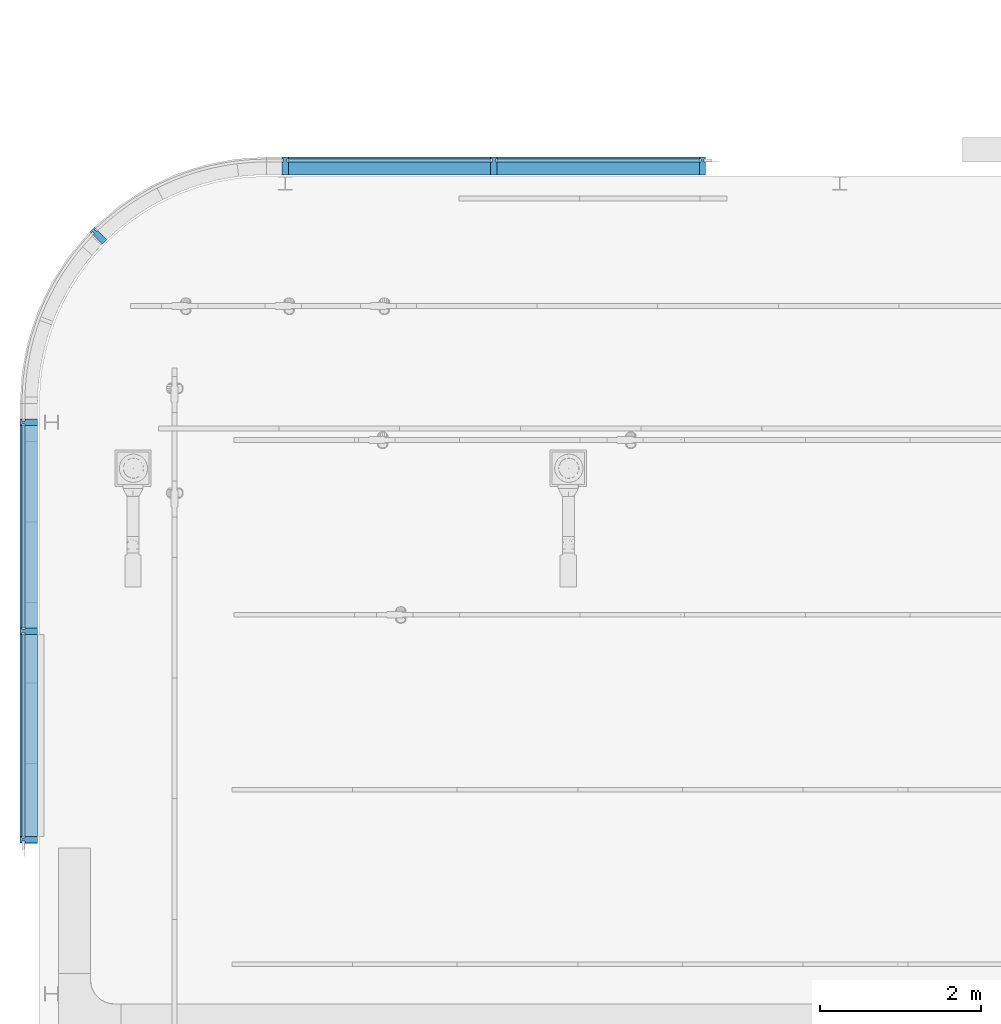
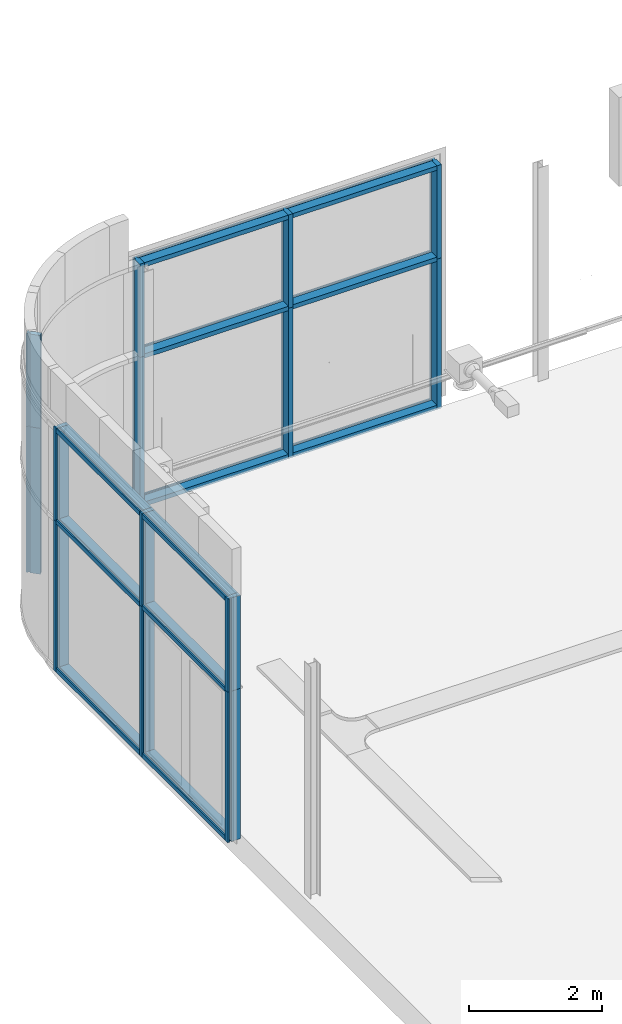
# One storey, part 7 of 290: 26 members, 3 elements without a shape of their own.
"""IFC2X3 building model written with IfcOpenShell, lengths in metres."""

import ifcopenshell
import ifcopenshell.guid

model = None  # the IFC model being written
_history = None  # IfcOwnerHistory: only IFC2X3 demands one
_inside = {}  # id of a spatial element -> (the spatial element, [elements in it])
_under = {}  # id of a project, library or spatial element -> (it, [spatial elements below it])
_declared = {}  # id of a project -> (the project, [libraries it declares])
_typed = {}  # id of a type object -> (the type object, [elements of that type])
_made_of = {}  # id of a material, layer set ... -> (it, [elements and type objects made of it])


def new_model(schema):
    """Start an empty IFC model of exactly this schema.

    Asked for "IFC4X3", IfcOpenShell would pick the latest addendum, in which some entities
    have other attributes; the version numbers below select the first issue.
    IFC2X3 requires an IfcOwnerHistory on every rooted entity: one is made here for all.
    """
    global model, _history
    if schema == "IFC4X3":
        model = ifcopenshell.file(schema_version=(4, 3, 0, 0))
    else:
        model = ifcopenshell.file(schema=schema)
    _inside.clear()
    _under.clear()
    _declared.clear()
    _typed.clear()
    _made_of.clear()
    _history = None
    if model.schema == "IFC2X3":
        org = make("IfcOrganization", Name="unknown")
        user = make(
            "IfcPersonAndOrganization",
            ThePerson=make("IfcPerson", FamilyName="unknown"),
            TheOrganization=org,
        )
        app = make(
            "IfcApplication",
            ApplicationDeveloper=org,
            Version="unknown",
            ApplicationFullName="unknown",
            ApplicationIdentifier="unknown",
        )
        _history = make(
            "IfcOwnerHistory",
            OwningUser=user,
            OwningApplication=app,
            ChangeAction="ADDED",
            CreationDate=0,
        )
    return model


def make(cls, **values):
    """One entity of the class cls with the attributes given. An attribute that is None is left unset."""
    return model.create_entity(
        cls, **{name: value for name, value in values.items() if value is not None}
    )


def entity(cls, *values):
    """Any entity or typed value of the class cls, its attributes in the order of the schema. None: left unset."""
    e = model.create_entity(cls)
    for i, value in enumerate(values):
        if value is not None:
            e[i] = value
    return e


def rooted(cls, **values):
    """An entity with a GlobalId (a new one), such as an element, a storey or a relation."""
    return make(cls, GlobalId=ifcopenshell.guid.new(), OwnerHistory=_history, **values)


def si_unit(unit_type, name, prefix=None):
    """IfcSIUnit, for example si_unit("LENGTHUNIT", "METRE", prefix="MILLI")."""
    return make("IfcSIUnit", UnitType=unit_type, Prefix=prefix, Name=name)


def converted_unit(unit_type, name, factor, base, dimensions=None, offset=None):
    """IfcConversionBasedUnit, such as the inch: factor (a typed value) times the base unit."""
    return make(
        "IfcConversionBasedUnit"
        if offset is None
        else "IfcConversionBasedUnitWithOffset",
        ConversionOffset=offset,
        Dimensions=None
        if dimensions is None
        else entity("IfcDimensionalExponents", *dimensions),
        UnitType=unit_type,
        Name=name,
        ConversionFactor=make(
            "IfcMeasureWithUnit", ValueComponent=factor, UnitComponent=base
        ),
    )


def derived_unit(unit_type, elements):
    """IfcDerivedUnit: a product of units, each with its exponent."""
    return make(
        "IfcDerivedUnit",
        Elements=[
            make("IfcDerivedUnitElement", Unit=unit, Exponent=power)
            for unit, power in elements
        ],
        UnitType=unit_type,
    )


def assignment(units):
    """IfcUnitAssignment: the units of a project."""
    return None if units is None else make("IfcUnitAssignment", Units=units)


def point(xyz):
    """IfcCartesianPoint."""
    return None if xyz is None else make("IfcCartesianPoint", Coordinates=xyz)


def direction(xyz):
    """IfcDirection."""
    return None if xyz is None else make("IfcDirection", DirectionRatios=xyz)


def frame(location, z_axis=None, x_axis=None):
    """IfcAxis2Placement3D, a coordinate frame: its origin and axes. An axis left out is left unset."""
    return make(
        "IfcAxis2Placement3D",
        Location=point(location),
        Axis=direction(z_axis),
        RefDirection=direction(x_axis),
    )


def origin():
    """The frame at (0, 0, 0) with its axes left unset."""
    return frame((0.0, 0.0, 0.0))


def place(relative_to, where):
    """IfcLocalPlacement: puts the frame where relative to a parent placement (None: the world)."""
    return make(
        "IfcLocalPlacement", PlacementRelTo=relative_to, RelativePlacement=where
    )


def context(
    kind, dimensions, precision=None, world=None, true_north=None, identifier=None
):
    """IfcGeometricRepresentationContext, for example the 3D "Model" context."""
    return make(
        "IfcGeometricRepresentationContext",
        ContextIdentifier=identifier,
        ContextType=kind,
        CoordinateSpaceDimension=dimensions,
        Precision=precision,
        WorldCoordinateSystem=world,
        TrueNorth=true_north,
    )


def subcontext(parent, identifier, kind, view, scale=None):
    """IfcGeometricRepresentationSubContext, for example "Body" below "Model"."""
    return make(
        "IfcGeometricRepresentationSubContext",
        ContextIdentifier=identifier,
        ContextType=kind,
        ParentContext=parent,
        TargetScale=scale,
        TargetView=view,
    )


def project(units=None, contexts=None):
    """IfcProject with its units and contexts."""
    return rooted(
        "IfcProject",
        Name="project",
        RepresentationContexts=contexts,
        UnitsInContext=assignment(units),
    )


def spatial(cls, under=None, at=None, **own):
    """A site, building, storey or space (cls), placed at a placement, below another one or the project."""
    s = rooted(cls, ObjectPlacement=at, **own)
    if under is not None:
        _under.setdefault(under.id(), (under, []))[1].append(s)
    return s


def polyline(points):
    """IfcPolyline through the points."""
    return make("IfcPolyline", Points=[point(p) for p in points])


def outline(outer, holes=None, kind="AREA"):
    """IfcArbitraryClosedProfileDef: a profile drawn as a closed curve; with holes, ...WithVoids."""
    if holes is None:
        return make("IfcArbitraryClosedProfileDef", ProfileType=kind, OuterCurve=outer)
    return make(
        "IfcArbitraryProfileDefWithVoids",
        ProfileType=kind,
        OuterCurve=outer,
        InnerCurves=holes,
    )


def extrude(swept, where, along, depth):
    """IfcExtrudedAreaSolid: the profile swept, set in the frame where, extruded along a direction by depth."""
    return make(
        "IfcExtrudedAreaSolid",
        SweptArea=swept,
        Position=where,
        ExtrudedDirection=direction(along),
        Depth=depth,
    )


def shape(context_of_items, identifier, shape_type, items):
    """IfcShapeRepresentation: the items that make up one representation, for example the "Body"."""
    return make(
        "IfcShapeRepresentation",
        ContextOfItems=context_of_items,
        RepresentationIdentifier=identifier,
        RepresentationType=shape_type,
        Items=items,
    )


def source(mapping_origin, context_of_items, identifier, shape_type, items):
    """IfcRepresentationMap: a shape defined once, which mapped items show again and again."""
    return make(
        "IfcRepresentationMap",
        MappingOrigin=mapping_origin,
        MappedRepresentation=shape(context_of_items, identifier, shape_type, items),
    )


def transform(
    local_origin,
    x_axis=None,
    y_axis=None,
    z_axis=None,
    scale=None,
    scale2=None,
    scale3=None,
    uniform=True,
):
    """IfcCartesianTransformationOperator3D, or its non-uniform kind. x_axis, y_axis, z_axis: its Axis1, 2, 3."""
    if uniform:
        return make(
            "IfcCartesianTransformationOperator3D",
            Axis1=direction(x_axis),
            Axis2=direction(y_axis),
            LocalOrigin=point(local_origin),
            Scale=scale,
            Axis3=direction(z_axis),
        )
    return make(
        "IfcCartesianTransformationOperator3DnonUniform",
        Axis1=direction(x_axis),
        Axis2=direction(y_axis),
        LocalOrigin=point(local_origin),
        Scale=scale,
        Axis3=direction(z_axis),
        Scale2=scale2,
        Scale3=scale3,
    )


def mapped(mapping_source, mapping_target):
    """IfcMappedItem: shows the shape of a source again, moved by a transform."""
    return make(
        "IfcMappedItem", MappingSource=mapping_source, MappingTarget=mapping_target
    )


def material(Name=None, Category=None):
    """IfcMaterial."""
    return make("IfcMaterial", Name=Name, Category=Category)


def made_of(thing, what):
    """Note that an element or type object is made of a material, layer set ...; save() writes the relation."""
    if what is not None:
        _made_of.setdefault(what.id(), (what, []))[1].append(thing)
    return thing


def type_object(cls, material=None, **own):
    """A type object (cls), such as IfcWallType, which elements share."""
    return made_of(rooted(cls, **own), material)


def type_shapes(of_type, sources):
    """Give a type object the sources (RepresentationMaps) that its elements show as mapped items."""
    of_type.RepresentationMaps = sources


def element(
    cls,
    number,
    at=None,
    inside=None,
    cuts=None,
    type_object=None,
    material=None,
    context=None,
    identifier="Body",
    shape_type=None,
    held_by="IfcProductDefinitionShape",
    body=None,
    shapes=None,
    **own,
):
    """One element of the class cls, such as IfcWall. Its Tag is "e" and its number.

    at: its placement. inside: the storey or other place that contains it. cuts: it is an
    opening in that element (IfcRelVoidsElement). A single representation is given by context,
    identifier, shape_type and body (its items); several are given by shapes. held_by: the class
    of the entity that holds the representations. save() writes the other relations.
    """
    e = rooted(cls, Tag="e%d" % number, ObjectPlacement=at, **own)
    if body is not None:
        shapes = [shape(context, identifier, shape_type, body)]
    if shapes is not None:
        e.Representation = make(held_by, Representations=shapes)
    if inside is not None:
        _inside.setdefault(inside.id(), (inside, []))[1].append(e)
    if cuts is not None:
        rooted(
            "IfcRelVoidsElement", RelatingBuildingElement=cuts, RelatedOpeningElement=e
        )
    if type_object is not None:
        _typed.setdefault(type_object.id(), (type_object, []))[1].append(e)
    return made_of(e, material)


def aggregate(whole, parts):
    """IfcRelAggregates: a whole, such as a stair, and the parts it consists of."""
    return rooted("IfcRelAggregates", RelatingObject=whole, RelatedObjects=parts)


def save(model, path):
    """Write the relations noted so far, then the file.

    IfcRelAggregates (storeys below a building ...), IfcRelContainedInSpatialStructure (elements
    in a storey), IfcRelDefinesByType, IfcRelAssociatesMaterial and IfcRelDeclares: one each for
    every whole, place, type object, material and project.
    """
    for whole, parts in _under.values():
        aggregate(whole, parts)
    for where, things in _inside.values():
        rooted(
            "IfcRelContainedInSpatialStructure",
            RelatedElements=things,
            RelatingStructure=where,
        )
    for kind, things in _typed.values():
        rooted("IfcRelDefinesByType", RelatedObjects=things, RelatingType=kind)
    for what, things in _made_of.values():
        rooted("IfcRelAssociatesMaterial", RelatedObjects=things, RelatingMaterial=what)
    for by, libraries in _declared.values():
        rooted("IfcRelDeclares", RelatingContext=by, RelatedDefinitions=libraries)
    model.write(path)


model = new_model("IFC2X3")

# Units and contexts
model_context = context("Model", 3, precision=1e-05, world=origin(), true_north=direction((6.12303176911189e-17, 1.0)))
body_context = subcontext(model_context, "Body", "Model", "MODEL_VIEW")
ifc_project = project(units=[si_unit("LENGTHUNIT", "METRE"), si_unit("AREAUNIT", "SQUARE_METRE"), si_unit("VOLUMEUNIT", "CUBIC_METRE"), converted_unit("PLANEANGLEUNIT", "DEGREE", entity("IfcRatioMeasure", 0.0174532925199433), si_unit("PLANEANGLEUNIT", "RADIAN"), dimensions=[0, 0, 0, 0, 0, 0, 0]), si_unit("MASSUNIT", "GRAM", prefix="KILO"), derived_unit("MASSDENSITYUNIT", [(si_unit("MASSUNIT", "GRAM", prefix="KILO"), 1), (si_unit("LENGTHUNIT", "METRE"), -3)]), derived_unit("MOMENTOFINERTIAUNIT", [(si_unit("LENGTHUNIT", "METRE"), 4)]), si_unit("TIMEUNIT", "SECOND"), si_unit("FREQUENCYUNIT", "HERTZ"), si_unit("THERMODYNAMICTEMPERATUREUNIT", "DEGREE_CELSIUS"), derived_unit("THERMALTRANSMITTANCEUNIT", [(si_unit("MASSUNIT", "GRAM", prefix="KILO"), 1), (si_unit("THERMODYNAMICTEMPERATUREUNIT", "KELVIN"), -1), (si_unit("TIMEUNIT", "SECOND"), -3)]), derived_unit("VOLUMETRICFLOWRATEUNIT", [(si_unit("LENGTHUNIT", "METRE"), 3), (si_unit("TIMEUNIT", "SECOND"), -1)]), si_unit("ELECTRICCURRENTUNIT", "AMPERE"), si_unit("ELECTRICVOLTAGEUNIT", "VOLT"), si_unit("POWERUNIT", "WATT"), si_unit("FORCEUNIT", "NEWTON", prefix="KILO"), si_unit("ILLUMINANCEUNIT", "LUX"), si_unit("LUMINOUSFLUXUNIT", "LUMEN"), si_unit("LUMINOUSINTENSITYUNIT", "CANDELA"), derived_unit("USERDEFINED", [(si_unit("MASSUNIT", "GRAM", prefix="KILO"), -1), (si_unit("LENGTHUNIT", "METRE"), -2), (si_unit("TIMEUNIT", "SECOND"), 3), (si_unit("LUMINOUSFLUXUNIT", "LUMEN"), 1)]), derived_unit("LINEARVELOCITYUNIT", [(si_unit("LENGTHUNIT", "METRE"), 1), (si_unit("TIMEUNIT", "SECOND"), -1)]), si_unit("PRESSUREUNIT", "PASCAL"), derived_unit("USERDEFINED", [(si_unit("LENGTHUNIT", "METRE"), -2), (si_unit("MASSUNIT", "GRAM", prefix="KILO"), 1), (si_unit("TIMEUNIT", "SECOND"), -2)]), derived_unit("LINEARFORCEUNIT", [(si_unit("MASSUNIT", "GRAM", prefix="KILO"), 1), (si_unit("LENGTHUNIT", "METRE"), 1), (si_unit("TIMEUNIT", "SECOND"), -2), (si_unit("LENGTHUNIT", "METRE"), -1)]), derived_unit("PLANARFORCEUNIT", [(si_unit("MASSUNIT", "GRAM", prefix="KILO"), 1), (si_unit("LENGTHUNIT", "METRE"), 1), (si_unit("TIMEUNIT", "SECOND"), -2), (si_unit("LENGTHUNIT", "METRE"), -2)])], contexts=[model_context])

# Site, building, storey
site_placement = place(None, origin())
site = spatial("IfcSite", under=ifc_project, at=site_placement, Name="Default", CompositionType="ELEMENT")
building_placement = place(site_placement, origin())
building = spatial("IfcBuilding", under=site, at=building_placement, CompositionType="ELEMENT")
storey_placement = place(building_placement, frame((0.0, 0.0, 4.0)))
storey = spatial("IfcBuildingStorey", under=building, at=storey_placement, Name="01_OG", CompositionType="ELEMENT", Elevation=4.0)

# Curtain wall, members
curtain_wall_type = type_object("IfcCurtainWallType", Name="Fassade:Glasfassade", PredefinedType="NOTDEFINED")
curtain_wall_1_placement = place(storey_placement, frame((0.0, 0.0, -4.0)))
curtain_wall_1 = element("IfcCurtainWall", 1, at=curtain_wall_1_placement, inside=storey, type_object=curtain_wall_type, Name="Fassade:Glasfassade", ObjectType="Fassade:Glasfassade")
ifc_material = material(Name="Prepainted_Steel-ArcelorMittal_Construction_HAIRULTRA-35-CORAL-4309-[RAL_3000]")
member_type_1 = type_object("IfcMemberType", Name="Rectangular Mullion:Fassadenrahmen Typ 1", PredefinedType="MULLION", material=ifc_material)
shared_shape_1 = source(origin(), body_context, "Body", "SweptSolid", [
    extrude(outline(polyline([(-0.155, -0.04), (0.00499999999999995, -0.04), (0.00499999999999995, -0.02), (0.04, -0.02), (0.04, -0.04), (0.065, -0.04), (0.065, 0.04), (0.04, 0.04), (0.04, 0.02), (0.00499999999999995, 0.02), (0.00499999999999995, 0.04), (-0.155, 0.04), (-0.155, -0.04)])), frame((0.0, -0.155, -1.72000000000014), z_axis=(0.0, 0.0, 1.0), x_axis=(0.0, -1.0, 0.0)), (0.0, 0.0, 1.0), 1.72000000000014),
])
type_shapes(member_type_1, [shared_shape_1])
member_1_placement = place(storey_placement, frame((-261.01611364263, 45.578088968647, 3.2), z_axis=(0.0, 0.0, -1.0), x_axis=(1.0, 0.0, 0.0)))
member_1 = element("IfcMember", 2, at=member_1_placement, type_object=member_type_1, material=ifc_material, Name="Rectangular Mullion:Fassadenrahmen Typ 1", ObjectType="Rectangular Mullion:Fassadenrahmen Typ 1", context=body_context, shape_type="MappedRepresentation", body=[
    mapped(shared_shape_1, transform((0.0, 0.0, 0.0), scale=1.0)),
])
member_2_placement = place(storey_placement, frame((-263.60611364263, 45.578088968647, 3.2), z_axis=(0.0, 0.0, -1.0), x_axis=(1.0, 0.0, 0.0)))
member_2 = element("IfcMember", 3, at=member_2_placement, type_object=member_type_1, material=ifc_material, Name="Rectangular Mullion:Fassadenrahmen Typ 1", ObjectType="Rectangular Mullion:Fassadenrahmen Typ 1", context=body_context, shape_type="MappedRepresentation", body=[
    mapped(shared_shape_1, transform((0.0, 0.0, 0.0), scale=1.0)),
])

curtain_wall_2_placement = place(storey_placement, frame((0.0, 0.0, -4.0)))
curtain_wall_2 = element("IfcCurtainWall", 4, at=curtain_wall_2_placement, inside=storey, type_object=curtain_wall_type, Name="Fassade:Glasfassade", ObjectType="Fassade:Glasfassade")
member_type_2 = type_object("IfcMemberType", Name="Rectangular Mullion:Fassadenrahmen Typ 1", PredefinedType="MULLION", material=ifc_material)
shared_shape_2 = source(origin(), body_context, "Body", "SweptSolid", [
    extrude(outline(polyline([(-0.065, -0.04), (-0.04, -0.04), (-0.04, -0.02), (-0.00499999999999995, -0.02), (-0.00499999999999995, -0.04), (0.155, -0.04), (0.155, 0.04), (-0.00499999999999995, 0.04), (-0.00499999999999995, 0.02), (-0.04, 0.02), (-0.04, 0.04), (-0.065, 0.04), (-0.065, -0.04)])), frame((0.0, 0.155, -2.77000000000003), z_axis=(0.0, 0.0, 1.0), x_axis=(0.0, -1.0, 0.0)), (0.0, 0.0, 1.0), 2.77000000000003),
])
type_shapes(member_type_2, [shared_shape_2])
member_3_placement = place(storey_placement, frame((-266.680111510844, 42.5040911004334, 0.430000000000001), z_axis=(0.0, 0.0, -1.0), x_axis=(0.0, -1.0, 0.0)))
member_3 = element("IfcMember", 5, at=member_3_placement, type_object=member_type_2, material=ifc_material, Name="Rectangular Mullion:Fassadenrahmen Typ 1", ObjectType="Rectangular Mullion:Fassadenrahmen Typ 1", context=body_context, shape_type="MappedRepresentation", body=[
    mapped(shared_shape_2, transform((0.0, 0.0, 0.0), scale=1.0)),
])
member_4_placement = place(storey_placement, frame((-266.680111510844, 39.9140911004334, 0.430000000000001), z_axis=(0.0, 0.0, -1.0), x_axis=(0.0, -1.0, 0.0)))
member_4 = element("IfcMember", 6, at=member_4_placement, type_object=member_type_2, material=ifc_material, Name="Rectangular Mullion:Fassadenrahmen Typ 1", ObjectType="Rectangular Mullion:Fassadenrahmen Typ 1", context=body_context, shape_type="MappedRepresentation", body=[
    mapped(shared_shape_2, transform((0.0, 0.0, 0.0), scale=1.0)),
])
member_type_3 = type_object("IfcMemberType", Name="Rectangular Mullion:Fassadenrahmen Typ 1", PredefinedType="MULLION", material=ifc_material)
shared_shape_3 = source(origin(), body_context, "Body", "SweptSolid", [
    extrude(outline(polyline([(-0.065, -0.04), (-0.04, -0.04), (-0.04, -0.02), (-0.00499999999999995, -0.02), (-0.00499999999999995, -0.04), (0.155, -0.04), (0.155, 0.04), (-0.00499999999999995, 0.04), (-0.00499999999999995, 0.02), (-0.04, 0.02), (-0.04, 0.04), (-0.065, 0.04), (-0.065, -0.04)])), frame((-0.04, 0.155, -2.77000000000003), z_axis=(0.0, 0.0, 1.0), x_axis=(0.0, -1.0, 0.0)), (0.0, 0.0, 1.0), 2.77000000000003),
])
type_shapes(member_type_3, [shared_shape_3])
member_5_placement = place(storey_placement, frame((-266.680111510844, 37.2840911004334, 0.430000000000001), z_axis=(0.0, 0.0, -1.0), x_axis=(0.0, -1.0, 0.0)))
member_5 = element("IfcMember", 7, at=member_5_placement, type_object=member_type_3, material=ifc_material, Name="Rectangular Mullion:Fassadenrahmen Typ 1", ObjectType="Rectangular Mullion:Fassadenrahmen Typ 1", context=body_context, shape_type="MappedRepresentation", body=[
    mapped(shared_shape_3, transform((0.0, 0.0, 0.0), scale=1.0)),
])
member_type_4 = type_object("IfcMemberType", Name="Rectangular Mullion:Fassadenrahmen Typ 1", PredefinedType="MULLION", material=ifc_material)
shared_shape_4 = source(origin(), body_context, "Body", "SweptSolid", [
    extrude(outline(polyline([(-0.065, -0.04), (-0.04, -0.04), (-0.04, -0.02), (-0.00499999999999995, -0.02), (-0.00499999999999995, -0.04), (0.155, -0.04), (0.155, 0.04), (-0.00499999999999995, 0.04), (-0.00499999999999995, 0.02), (-0.04, 0.02), (-0.04, 0.04), (-0.065, 0.04), (-0.065, -0.04)])), frame((0.0, 0.155, -1.72), z_axis=(0.0, 0.0, 1.0), x_axis=(0.0, -1.0, 0.0)), (0.0, 0.0, 1.0), 1.72),
])
type_shapes(member_type_4, [shared_shape_4])
member_6_placement = place(storey_placement, frame((-266.680111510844, 42.5040911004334, 3.2), z_axis=(0.0, 0.0, -1.0), x_axis=(0.0, -1.0, 0.0)))
member_6 = element("IfcMember", 8, at=member_6_placement, type_object=member_type_4, material=ifc_material, Name="Rectangular Mullion:Fassadenrahmen Typ 1", ObjectType="Rectangular Mullion:Fassadenrahmen Typ 1", context=body_context, shape_type="MappedRepresentation", body=[
    mapped(shared_shape_4, transform((0.0, 0.0, 0.0), scale=1.0)),
])
member_7_placement = place(storey_placement, frame((-266.680111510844, 39.9140911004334, 3.2), z_axis=(0.0, 0.0, -1.0), x_axis=(0.0, -1.0, 0.0)))
member_7 = element("IfcMember", 9, at=member_7_placement, type_object=member_type_4, material=ifc_material, Name="Rectangular Mullion:Fassadenrahmen Typ 1", ObjectType="Rectangular Mullion:Fassadenrahmen Typ 1", context=body_context, shape_type="MappedRepresentation", body=[
    mapped(shared_shape_4, transform((0.0, 0.0, 0.0), scale=1.0)),
])
member_type_5 = type_object("IfcMemberType", Name="Rectangular Mullion:Fassadenrahmen Typ 1", PredefinedType="MULLION", material=ifc_material)
shared_shape_5 = source(origin(), body_context, "Body", "SweptSolid", [
    extrude(outline(polyline([(-0.065, -0.04), (-0.04, -0.04), (-0.04, -0.02), (-0.00499999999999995, -0.02), (-0.00499999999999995, -0.04), (0.155, -0.04), (0.155, 0.04), (-0.00499999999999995, 0.04), (-0.00499999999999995, 0.02), (-0.04, 0.02), (-0.04, 0.04), (-0.065, 0.04), (-0.065, -0.04)])), frame((-0.04, 0.155, -1.72), z_axis=(0.0, 0.0, 1.0), x_axis=(0.0, -1.0, 0.0)), (0.0, 0.0, 1.0), 1.72),
])
type_shapes(member_type_5, [shared_shape_5])
member_8_placement = place(storey_placement, frame((-266.680111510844, 37.2840911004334, 3.2), z_axis=(0.0, 0.0, -1.0), x_axis=(0.0, -1.0, 0.0)))
member_8 = element("IfcMember", 10, at=member_8_placement, type_object=member_type_5, material=ifc_material, Name="Rectangular Mullion:Fassadenrahmen Typ 1", ObjectType="Rectangular Mullion:Fassadenrahmen Typ 1", context=body_context, shape_type="MappedRepresentation", body=[
    mapped(shared_shape_5, transform((0.0, 0.0, 0.0), scale=1.0)),
])
member_type_6 = type_object("IfcMemberType", Name="Rectangular Mullion:Fassadenrahmen Typ 1", PredefinedType="MULLION", material=ifc_material)
shared_shape_6 = source(origin(), body_context, "Body", "SweptSolid", [
    extrude(outline(polyline([(-0.065, -0.04), (-0.04, -0.04), (-0.04, -0.02), (-0.00499999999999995, -0.02), (-0.00499999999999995, -0.04), (0.155, -0.04), (0.155, 0.04), (-0.00499999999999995, 0.04), (-0.00499999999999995, 0.02), (-0.04, 0.02), (-0.04, 0.04), (-0.065, 0.04), (-0.065, -0.04)])), frame((0.0, 0.155, -2.51), z_axis=(0.0, 0.0, 1.0), x_axis=(0.0, -1.0, 0.0)), (0.0, 0.0, 1.0), 2.51),
])
type_shapes(member_type_6, [shared_shape_6])
member_9_placement = place(storey_placement, frame((-266.680111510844, 39.9540911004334, 3.2), z_axis=(0.0, -1.0, 0.0), x_axis=(0.0, 0.0, 1.0)))
member_9 = element("IfcMember", 11, at=member_9_placement, type_object=member_type_6, material=ifc_material, Name="Rectangular Mullion:Fassadenrahmen Typ 1", ObjectType="Rectangular Mullion:Fassadenrahmen Typ 1", context=body_context, shape_type="MappedRepresentation", body=[
    mapped(shared_shape_6, transform((0.0, 0.0, 0.0), scale=1.0)),
])
member_10_placement = place(storey_placement, frame((-266.680111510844, 37.3640911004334, 3.2), z_axis=(0.0, -1.0, 0.0), x_axis=(0.0, 0.0, 1.0)))
member_10 = element("IfcMember", 12, at=member_10_placement, type_object=member_type_6, material=ifc_material, Name="Rectangular Mullion:Fassadenrahmen Typ 1", ObjectType="Rectangular Mullion:Fassadenrahmen Typ 1", context=body_context, shape_type="MappedRepresentation", body=[
    mapped(shared_shape_6, transform((0.0, 0.0, 0.0), scale=1.0)),
])
member_type_7 = type_object("IfcMemberType", Name="Rectangular Mullion:Fassadenrahmen Typ 1", PredefinedType="MULLION", material=ifc_material)
shared_shape_7 = source(origin(), body_context, "Body", "SweptSolid", [
    extrude(outline(polyline([(-0.065, -0.04), (-0.04, -0.04), (-0.04, -0.02), (-0.00499999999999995, -0.02), (-0.00499999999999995, -0.04), (0.155, -0.04), (0.155, 0.04), (-0.00499999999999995, 0.04), (-0.00499999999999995, 0.02), (-0.04, 0.02), (-0.04, 0.04), (-0.065, 0.04), (-0.065, -0.04)])), frame((-0.04, 0.155, -2.51), z_axis=(0.0, 0.0, 1.0), x_axis=(0.0, -1.0, 0.0)), (0.0, 0.0, 1.0), 2.51),
])
type_shapes(member_type_7, [shared_shape_7])
member_11_placement = place(storey_placement, frame((-266.680111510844, 39.9540911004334, 4.92), z_axis=(0.0, -1.0, 0.0), x_axis=(0.0, 0.0, 1.0)))
member_11 = element("IfcMember", 13, at=member_11_placement, type_object=member_type_7, material=ifc_material, Name="Rectangular Mullion:Fassadenrahmen Typ 1", ObjectType="Rectangular Mullion:Fassadenrahmen Typ 1", context=body_context, shape_type="MappedRepresentation", body=[
    mapped(shared_shape_7, transform((0.0, 0.0, 0.0), scale=1.0)),
])
member_12_placement = place(storey_placement, frame((-266.680111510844, 37.3640911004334, 4.92), z_axis=(0.0, -1.0, 0.0), x_axis=(0.0, 0.0, 1.0)))
member_12 = element("IfcMember", 14, at=member_12_placement, type_object=member_type_7, material=ifc_material, Name="Rectangular Mullion:Fassadenrahmen Typ 1", ObjectType="Rectangular Mullion:Fassadenrahmen Typ 1", context=body_context, shape_type="MappedRepresentation", body=[
    mapped(shared_shape_7, transform((0.0, 0.0, 0.0), scale=1.0)),
])
member_type_8 = type_object("IfcMemberType", Name="Rectangular Mullion:Fassadenrahmen Typ 1", PredefinedType="MULLION", material=ifc_material)
shared_shape_8 = source(origin(), body_context, "Body", "SweptSolid", [
    extrude(outline(polyline([(-0.0649999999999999, -0.04), (-0.04, -0.04), (-0.04, -0.02), (-0.00499999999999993, -0.02), (-0.00499999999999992, -0.04), (0.155, -0.0399999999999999), (0.155, 0.0400000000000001), (-0.00499999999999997, 0.04), (-0.00499999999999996, 0.02), (-0.04, 0.02), (-0.04, 0.04), (-0.065, 0.0399999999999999), (-0.0649999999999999, -0.04)])), frame((-0.04, 0.155, -2.51), z_axis=(0.0, 0.0, 1.0), x_axis=(0.0, -1.0, 0.0)), (0.0, 0.0, 1.0), 2.51),
])
type_shapes(member_type_8, [shared_shape_8])
member_13_placement = place(storey_placement, frame((-266.680111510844, 42.4640911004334, 0.430000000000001), z_axis=(0.0, 1.0, 0.0), x_axis=(0.0, 0.0, -1.0)))
member_13 = element("IfcMember", 15, at=member_13_placement, type_object=member_type_8, material=ifc_material, Name="Rectangular Mullion:Fassadenrahmen Typ 1", ObjectType="Rectangular Mullion:Fassadenrahmen Typ 1", context=body_context, shape_type="MappedRepresentation", body=[
    mapped(shared_shape_8, transform((0.0, 0.0, 0.0), scale=1.0)),
])
member_14_placement = place(storey_placement, frame((-266.680111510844, 39.8740911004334, 0.430000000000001), z_axis=(0.0, 1.0, 0.0), x_axis=(0.0, 0.0, -1.0)))
member_14 = element("IfcMember", 16, at=member_14_placement, type_object=member_type_8, material=ifc_material, Name="Rectangular Mullion:Fassadenrahmen Typ 1", ObjectType="Rectangular Mullion:Fassadenrahmen Typ 1", context=body_context, shape_type="MappedRepresentation", body=[
    mapped(shared_shape_8, transform((0.0, 0.0, 0.0), scale=1.0)),
])
aggregate(curtain_wall_2, [member_3, member_4, member_5, member_6, member_7, member_8, member_9, member_10, member_11, member_12, member_13, member_14])

# Member
member_type_9 = type_object("IfcMemberType", Name="Rectangular Mullion:Fassadenrahmen Typ 1", PredefinedType="MULLION", material=ifc_material)
shared_shape_9 = source(origin(), body_context, "Body", "SweptSolid", [
    extrude(outline(polyline([(-0.155, -0.04), (0.00499999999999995, -0.04), (0.00499999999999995, -0.02), (0.04, -0.02), (0.04, -0.04), (0.065, -0.04), (0.065, 0.04), (0.04, 0.04), (0.04, 0.02), (0.00499999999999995, 0.02), (0.00499999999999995, 0.04), (-0.155, 0.04), (-0.155, -0.04)])), frame((0.0, -0.155, -2.76999999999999), z_axis=(0.0, 0.0, 1.0), x_axis=(0.0, -1.0, 0.0)), (0.0, 0.0, 1.0), 2.76999999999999),
])
type_shapes(member_type_9, [shared_shape_9])
member_15_placement = place(storey_placement, frame((-261.01611364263, 45.578088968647, 0.429999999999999), z_axis=(0.0, 0.0, -1.0), x_axis=(1.0, 0.0, 0.0)))
member_15 = element("IfcMember", 17, at=member_15_placement, type_object=member_type_9, material=ifc_material, Name="Rectangular Mullion:Fassadenrahmen Typ 1", ObjectType="Rectangular Mullion:Fassadenrahmen Typ 1", context=body_context, shape_type="MappedRepresentation", body=[
    mapped(shared_shape_9, transform((0.0, 0.0, 0.0), scale=1.0)),
])

member_16_placement = place(storey_placement, frame((-263.60611364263, 45.578088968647, 0.429999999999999), z_axis=(0.0, 0.0, -1.0), x_axis=(1.0, 0.0, 0.0)))
member_16 = element("IfcMember", 18, at=member_16_placement, type_object=member_type_9, material=ifc_material, Name="Rectangular Mullion:Fassadenrahmen Typ 1", ObjectType="Rectangular Mullion:Fassadenrahmen Typ 1", context=body_context, shape_type="MappedRepresentation", body=[
    mapped(shared_shape_9, transform((0.0, 0.0, 0.0), scale=1.0)),
])

member_type_10 = type_object("IfcMemberType", Name="Rectangular Mullion:Fassadenrahmen Typ 1", PredefinedType="MULLION", material=ifc_material)
shared_shape_10 = source(origin(), body_context, "Body", "SweptSolid", [
    extrude(outline(polyline([(-0.155, -0.04), (0.00499999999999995, -0.04), (0.00499999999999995, -0.02), (0.04, -0.02), (0.04, -0.04), (0.065, -0.04), (0.065, 0.04), (0.04, 0.04), (0.04, 0.02), (0.00499999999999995, 0.02), (0.00499999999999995, 0.04), (-0.155, 0.04), (-0.155, -0.04)])), frame((-0.04, -0.155, -1.72), z_axis=(0.0, 0.0, 1.0), x_axis=(0.0, -1.0, 0.0)), (0.0, 0.0, 1.0), 1.72),
])
type_shapes(member_type_10, [shared_shape_10])
member_17_placement = place(storey_placement, frame((-258.38611364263, 45.578088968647, 3.2), z_axis=(0.0, 0.0, -1.0), x_axis=(1.0, 0.0, 0.0)))
member_17 = element("IfcMember", 19, at=member_17_placement, type_object=member_type_10, material=ifc_material, Name="Rectangular Mullion:Fassadenrahmen Typ 1", ObjectType="Rectangular Mullion:Fassadenrahmen Typ 1", context=body_context, shape_type="MappedRepresentation", body=[
    mapped(shared_shape_10, transform((0.0, 0.0, 0.0), scale=1.0)),
])

member_type_11 = type_object("IfcMemberType", Name="Rectangular Mullion:Fassadenrahmen Typ 1", PredefinedType="MULLION", material=ifc_material)
shared_shape_11 = source(origin(), body_context, "Body", "SweptSolid", [
    extrude(outline(polyline([(-0.155, -0.04), (0.00499999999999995, -0.04), (0.00499999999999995, -0.02), (0.04, -0.02), (0.04, -0.04), (0.065, -0.04), (0.065, 0.04), (0.04, 0.04), (0.04, 0.02), (0.00499999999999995, 0.02), (0.00499999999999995, 0.04), (-0.155, 0.04), (-0.155, -0.04)])), frame((0.0, -0.155, -2.51000000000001), z_axis=(0.0, 0.0, 1.0), x_axis=(0.0, -1.0, 0.0)), (0.0, 0.0, 1.0), 2.51),
])
type_shapes(member_type_11, [shared_shape_11])
member_18_placement = place(storey_placement, frame((-261.05611364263, 45.578088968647, 3.2), z_axis=(1.0, 0.0, 0.0), x_axis=(0.0, 0.0, 1.0)))
member_18 = element("IfcMember", 20, at=member_18_placement, type_object=member_type_11, material=ifc_material, Name="Rectangular Mullion:Fassadenrahmen Typ 1", ObjectType="Rectangular Mullion:Fassadenrahmen Typ 1", context=body_context, shape_type="MappedRepresentation", body=[
    mapped(shared_shape_11, transform((0.0, 0.0, 0.0), scale=1.0)),
])

member_19_placement = place(storey_placement, frame((-258.46611364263, 45.578088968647, 3.2), z_axis=(1.0, 0.0, 0.0), x_axis=(0.0, 0.0, 1.0)))
member_19 = element("IfcMember", 21, at=member_19_placement, type_object=member_type_11, material=ifc_material, Name="Rectangular Mullion:Fassadenrahmen Typ 1", ObjectType="Rectangular Mullion:Fassadenrahmen Typ 1", context=body_context, shape_type="MappedRepresentation", body=[
    mapped(shared_shape_11, transform((0.0, 0.0, 0.0), scale=1.0)),
])

member_type_12 = type_object("IfcMemberType", Name="Rectangular Mullion:Fassadenrahmen Typ 1", PredefinedType="MULLION", material=ifc_material)
shared_shape_12 = source(origin(), body_context, "Body", "SweptSolid", [
    extrude(outline(polyline([(-0.155, -0.04), (0.00499999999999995, -0.04), (0.00499999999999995, -0.02), (0.04, -0.02), (0.04, -0.04), (0.065, -0.04), (0.065, 0.04), (0.04, 0.04), (0.04, 0.02), (0.00499999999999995, 0.02), (0.00499999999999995, 0.04), (-0.155, 0.04), (-0.155, -0.04)])), frame((-0.04, -0.155, -2.51000000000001), z_axis=(0.0, 0.0, 1.0), x_axis=(0.0, -1.0, 0.0)), (0.0, 0.0, 1.0), 2.51),
])
type_shapes(member_type_12, [shared_shape_12])
member_20_placement = place(storey_placement, frame((-261.05611364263, 45.578088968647, 4.92), z_axis=(1.0, 0.0, 0.0), x_axis=(0.0, 0.0, 1.0)))
member_20 = element("IfcMember", 22, at=member_20_placement, type_object=member_type_12, material=ifc_material, Name="Rectangular Mullion:Fassadenrahmen Typ 1", ObjectType="Rectangular Mullion:Fassadenrahmen Typ 1", context=body_context, shape_type="MappedRepresentation", body=[
    mapped(shared_shape_12, transform((0.0, 0.0, 0.0), scale=1.0)),
])

member_21_placement = place(storey_placement, frame((-258.46611364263, 45.578088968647, 4.92), z_axis=(1.0, 0.0, 0.0), x_axis=(0.0, 0.0, 1.0)))
member_21 = element("IfcMember", 23, at=member_21_placement, type_object=member_type_12, material=ifc_material, Name="Rectangular Mullion:Fassadenrahmen Typ 1", ObjectType="Rectangular Mullion:Fassadenrahmen Typ 1", context=body_context, shape_type="MappedRepresentation", body=[
    mapped(shared_shape_12, transform((0.0, 0.0, 0.0), scale=1.0)),
])

member_type_13 = type_object("IfcMemberType", Name="Rectangular Mullion:Fassadenrahmen Typ 1", PredefinedType="MULLION", material=ifc_material)
shared_shape_13 = source(origin(), body_context, "Body", "SweptSolid", [
    extrude(outline(polyline([(-0.155, -0.04), (0.00499999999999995, -0.04), (0.00499999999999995, -0.02), (0.04, -0.02), (0.04, -0.04), (0.065, -0.04), (0.065, 0.04), (0.04, 0.04), (0.04, 0.02), (0.00499999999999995, 0.02), (0.00499999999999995, 0.04), (-0.155, 0.04), (-0.155, -0.04)])), frame((-0.04, -0.155, -2.51000000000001), z_axis=(0.0, 0.0, 1.0), x_axis=(0.0, -1.0, 0.0)), (0.0, 0.0, 1.0), 2.51),
])
type_shapes(member_type_13, [shared_shape_13])
member_22_placement = place(storey_placement, frame((-263.56611364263, 45.578088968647, 0.429999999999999), z_axis=(-1.0, 0.0, 0.0), x_axis=(0.0, 0.0, -1.0)))
member_22 = element("IfcMember", 24, at=member_22_placement, type_object=member_type_13, material=ifc_material, Name="Rectangular Mullion:Fassadenrahmen Typ 1", ObjectType="Rectangular Mullion:Fassadenrahmen Typ 1", context=body_context, shape_type="MappedRepresentation", body=[
    mapped(shared_shape_13, transform((0.0, 0.0, 0.0), scale=1.0)),
])

member_23_placement = place(storey_placement, frame((-260.97611364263, 45.578088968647, 0.429999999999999), z_axis=(-1.0, 0.0, 0.0), x_axis=(0.0, 0.0, -1.0)))
member_23 = element("IfcMember", 25, at=member_23_placement, type_object=member_type_13, material=ifc_material, Name="Rectangular Mullion:Fassadenrahmen Typ 1", ObjectType="Rectangular Mullion:Fassadenrahmen Typ 1", context=body_context, shape_type="MappedRepresentation", body=[
    mapped(shared_shape_13, transform((0.0, 0.0, 0.0), scale=1.0)),
])

member_type_14 = type_object("IfcMemberType", Name="Rectangular Mullion:Fassadenrahmen Typ 1", PredefinedType="MULLION", material=ifc_material)
shared_shape_14 = source(origin(), body_context, "Body", "SweptSolid", [
    extrude(outline(polyline([(-0.155, -0.04), (0.00499999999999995, -0.04), (0.00499999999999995, -0.02), (0.04, -0.02), (0.04, -0.04), (0.065, -0.04), (0.065, 0.04), (0.04, 0.04), (0.04, 0.02), (0.00499999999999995, 0.02), (0.00499999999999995, 0.04), (-0.155, 0.04), (-0.155, -0.04)])), frame((-0.04, -0.155, -2.76999999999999), z_axis=(0.0, 0.0, 1.0), x_axis=(0.0, -1.0, 0.0)), (0.0, 0.0, 1.0), 2.76999999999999),
])
type_shapes(member_type_14, [shared_shape_14])
member_24_placement = place(storey_placement, frame((-258.38611364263, 45.578088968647, 0.429999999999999), z_axis=(0.0, 0.0, -1.0), x_axis=(1.0, 0.0, 0.0)))
member_24 = element("IfcMember", 26, at=member_24_placement, type_object=member_type_14, material=ifc_material, Name="Rectangular Mullion:Fassadenrahmen Typ 1", ObjectType="Rectangular Mullion:Fassadenrahmen Typ 1", context=body_context, shape_type="MappedRepresentation", body=[
    mapped(shared_shape_14, transform((0.0, 0.0, 0.0), scale=1.0)),
])

aggregate(curtain_wall_1, [member_15, member_16, member_17, member_1, member_2, member_18, member_19, member_20, member_21, member_22, member_23, member_24])

# Curtain wall, members
curtain_wall_3_placement = place(storey_placement, frame((0.0, 0.0, -4.0)))
curtain_wall_3 = element("IfcCurtainWall", 27, at=curtain_wall_3_placement, inside=storey, type_object=curtain_wall_type, Name="Fassade:Glasfassade", ObjectType="Fassade:Glasfassade")
member_type_15 = type_object("IfcMemberType", Name="Rectangular Mullion:Fassadenrahmen Typ 1", PredefinedType="MULLION", material=ifc_material)
shared_shape_15 = source(origin(), body_context, "Body", "SweptSolid", [
    extrude(outline(polyline([(-0.154999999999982, -0.0399999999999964), (0.00500000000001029, -0.0399999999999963), (0.0050000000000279, -0.0199999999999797), (0.0400000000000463, -0.01999999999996), (0.0400000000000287, -0.0399999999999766), (0.0650000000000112, -0.0399999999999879), (0.0650000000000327, 0.0400000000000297), (0.0400000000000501, 0.040000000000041), (0.0400000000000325, 0.0200000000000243), (0.00500000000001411, 0.0200000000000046), (0.00500000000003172, 0.0400000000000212), (-0.154999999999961, 0.0400000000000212), (-0.154999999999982, -0.0399999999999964)])), frame((-265.957896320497, 44.8558737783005, 7.20000000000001), z_axis=(0.0, 0.0, 1.0), x_axis=(-0.70710678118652, 0.707106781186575, 0.0)), (0.0, 0.0, 1.0), 1.70999999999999),
])
type_shapes(member_type_15, [shared_shape_15])
member_25_placement = place(storey_placement, frame((0.0, 0.0, -4.0)))
member_25 = element("IfcMember", 28, at=member_25_placement, type_object=member_type_15, material=ifc_material, Name="Rectangular Mullion:Fassadenrahmen Typ 1", ObjectType="Rectangular Mullion:Fassadenrahmen Typ 1", context=body_context, shape_type="MappedRepresentation", body=[
    mapped(shared_shape_15, transform((0.0, 0.0, 0.0), scale=1.0)),
])
member_type_16 = type_object("IfcMemberType", Name="Rectangular Mullion:Fassadenrahmen Typ 1", PredefinedType="MULLION", material=ifc_material)
shared_shape_16 = source(origin(), body_context, "Body", "SweptSolid", [
    extrude(outline(polyline([(-0.065, -0.04), (-0.04, -0.04), (-0.04, -0.02), (-0.00499999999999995, -0.02), (-0.00499999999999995, -0.04), (0.155, -0.04), (0.155, 0.04), (-0.00499999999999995, 0.04), (-0.00499999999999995, 0.02), (-0.04, 0.02), (-0.04, 0.04), (-0.065, 0.04), (-0.065, -0.04)])), frame((0.0, 0.155, -2.69000000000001), z_axis=(0.0, 0.0, 1.0), x_axis=(0.0, -1.0, 0.0)), (0.0, 0.0, 1.0), 2.69000000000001),
])
type_shapes(member_type_16, [shared_shape_16])
member_26_placement = place(storey_placement, frame((-265.848294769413, 44.7462722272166, 0.510000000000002), z_axis=(0.0, 0.0, -1.0), x_axis=(-0.707106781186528, -0.707106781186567, 0.0)))
member_26 = element("IfcMember", 29, at=member_26_placement, type_object=member_type_16, material=ifc_material, Name="Rectangular Mullion:Fassadenrahmen Typ 1", ObjectType="Rectangular Mullion:Fassadenrahmen Typ 1", context=body_context, shape_type="MappedRepresentation", body=[
    mapped(shared_shape_16, transform((0.0, 0.0, 0.0), scale=1.0)),
])
aggregate(curtain_wall_3, [member_25, member_26])

save(model, "model.ifc")
